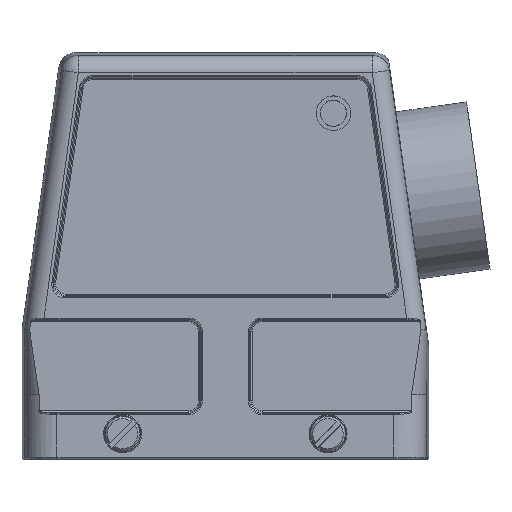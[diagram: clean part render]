
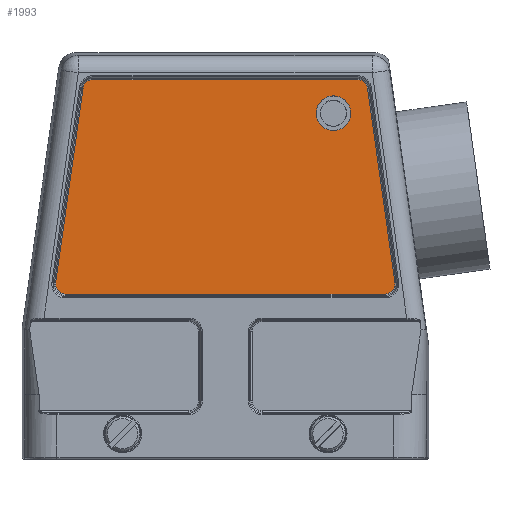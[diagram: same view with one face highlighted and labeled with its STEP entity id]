
A CAD part, front view. The second image highlights one B-rep face of the part: STEP entity #1993.
In plain terms, the highlighted planar face has unit normal (0, -1, 0).
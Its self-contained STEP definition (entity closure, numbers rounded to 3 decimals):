
#1993=ADVANCED_FACE('',(#3194,#3195),#2581,.T.);
#2581=PLANE('',#11171);
#2838=CIRCLE('',#11166,2.29);
#2839=CIRCLE('',#11167,2.29);
#2840=CIRCLE('',#11168,2.29);
#2841=CIRCLE('',#11169,2.29);
#2842=CIRCLE('',#11170,4.022);
#3194=FACE_BOUND('',#3375,.T.);
#3195=FACE_BOUND('',#3376,.T.);
#3375=EDGE_LOOP('',(#4438,#4439,#4440,#4441,#4442,#4443,#4444,#4445));
#3376=EDGE_LOOP('',(#4446));
#4438=ORIENTED_EDGE('',*,*,#8026,.T.);
#4439=ORIENTED_EDGE('',*,*,#8027,.T.);
#4440=ORIENTED_EDGE('',*,*,#8028,.T.);
#4441=ORIENTED_EDGE('',*,*,#8029,.T.);
#4442=ORIENTED_EDGE('',*,*,#8030,.T.);
#4443=ORIENTED_EDGE('',*,*,#8031,.T.);
#4444=ORIENTED_EDGE('',*,*,#8032,.T.);
#4445=ORIENTED_EDGE('',*,*,#8033,.T.);
#4446=ORIENTED_EDGE('',*,*,#8034,.F.);
#7156=VERTEX_POINT('',#17013);
#7157=VERTEX_POINT('',#17014);
#7158=VERTEX_POINT('',#17016);
#7159=VERTEX_POINT('',#17018);
#7160=VERTEX_POINT('',#17020);
#7161=VERTEX_POINT('',#17022);
#7162=VERTEX_POINT('',#17024);
#7163=VERTEX_POINT('',#17026);
#7164=VERTEX_POINT('',#17029);
#8026=EDGE_CURVE('',#7156,#7157,#2838,.T.);
#8027=EDGE_CURVE('',#7157,#7158,#9295,.T.);
#8028=EDGE_CURVE('',#7158,#7159,#2839,.T.);
#8029=EDGE_CURVE('',#7159,#7160,#9296,.T.);
#8030=EDGE_CURVE('',#7160,#7161,#2840,.T.);
#8031=EDGE_CURVE('',#7161,#7162,#9297,.T.);
#8032=EDGE_CURVE('',#7162,#7163,#2841,.T.);
#8033=EDGE_CURVE('',#7163,#7156,#9298,.T.);
#8034=EDGE_CURVE('',#7164,#7164,#2842,.T.);
#9295=LINE('',#17015,#9956);
#9296=LINE('',#17019,#9957);
#9297=LINE('',#17023,#9958);
#9298=LINE('',#17027,#9959);
#9956=VECTOR('',#12476,1.);
#9957=VECTOR('',#12479,1.);
#9958=VECTOR('',#12482,1.);
#9959=VECTOR('',#12485,1.);
#11166=AXIS2_PLACEMENT_3D('',#17012,#12474,#12475);
#11167=AXIS2_PLACEMENT_3D('',#17017,#12477,#12478);
#11168=AXIS2_PLACEMENT_3D('',#17021,#12480,#12481);
#11169=AXIS2_PLACEMENT_3D('',#17025,#12483,#12484);
#11170=AXIS2_PLACEMENT_3D('',#17028,#12486,#12487);
#11171=AXIS2_PLACEMENT_3D('',#17030,#12488,#12489);
#12474=DIRECTION('',(0.,-1.,0.));
#12475=DIRECTION('',(0.,0.,1.));
#12476=DIRECTION('',(-1.,0.,0.));
#12477=DIRECTION('',(0.,-1.,0.));
#12478=DIRECTION('',(0.,0.,1.));
#12479=DIRECTION('',(-0.139,0.,-0.99));
#12480=DIRECTION('',(0.,-1.,0.));
#12481=DIRECTION('',(0.,0.,1.));
#12482=DIRECTION('',(1.,0.,0.));
#12483=DIRECTION('',(0.,-1.,0.));
#12484=DIRECTION('',(0.,0.,1.));
#12485=DIRECTION('',(-0.139,0.,0.99));
#12486=DIRECTION('',(0.,-1.,0.));
#12487=DIRECTION('',(0.,0.,-1.));
#12488=DIRECTION('',(0.,-1.,0.));
#12489=DIRECTION('',(0.,0.,1.));
#17012=CARTESIAN_POINT('',(30.616,-40.,76.35));
#17013=CARTESIAN_POINT('',(32.884,-40.,76.669));
#17014=CARTESIAN_POINT('',(30.616,-40.,78.64));
#17015=CARTESIAN_POINT('',(30.616,-40.,78.64));
#17016=CARTESIAN_POINT('',(-30.616,-40.,78.64));
#17017=CARTESIAN_POINT('',(-30.616,-40.,76.35));
#17018=CARTESIAN_POINT('',(-32.884,-40.,76.669));
#17019=CARTESIAN_POINT('',(-32.884,-40.,76.669));
#17020=CARTESIAN_POINT('',(-39.208,-40.,31.669));
#17021=CARTESIAN_POINT('',(-36.941,-40.,31.35));
#17022=CARTESIAN_POINT('',(-36.941,-40.,29.06));
#17023=CARTESIAN_POINT('',(-36.941,-40.,29.06));
#17024=CARTESIAN_POINT('',(36.941,-40.,29.06));
#17025=CARTESIAN_POINT('',(36.941,-40.,31.35));
#17026=CARTESIAN_POINT('',(39.208,-40.,31.669));
#17027=CARTESIAN_POINT('',(39.208,-40.,31.669));
#17028=CARTESIAN_POINT('',(25.,-40.,70.85));
#17029=CARTESIAN_POINT('',(25.,-40.,66.828));
#17030=CARTESIAN_POINT('',(-30.616,-40.,76.35));
